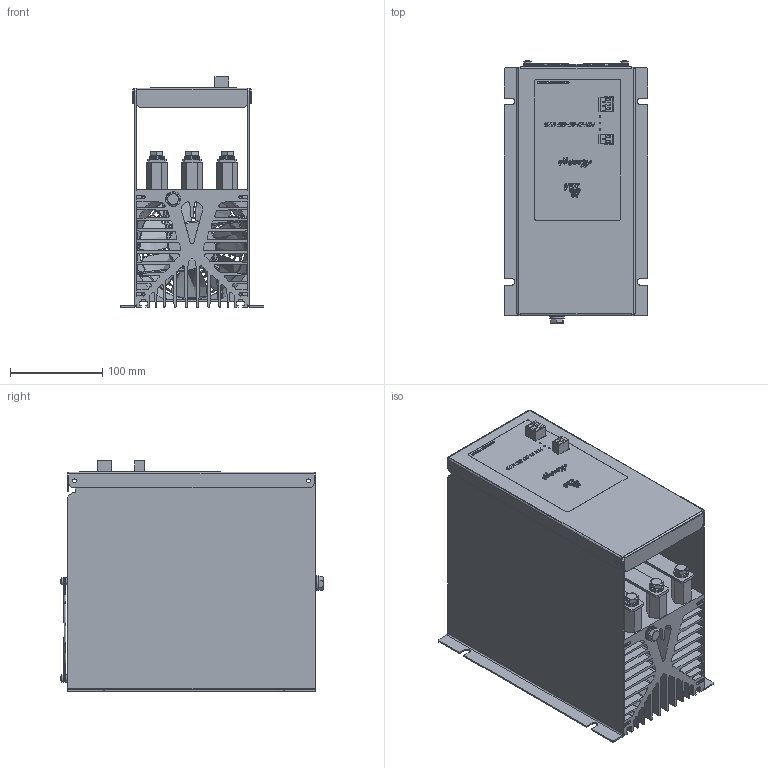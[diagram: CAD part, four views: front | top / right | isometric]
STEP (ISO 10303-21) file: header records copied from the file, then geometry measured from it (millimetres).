
FILE_DESCRIPTION(('STEP AP203'), '1');
FILE_NAME('ÌÒÊ 21-150 480 ÓÕË4', '2025-05-27T11:52:13', (''), ('ÎÎÎ "Ìåàíäð"'), 'C3D Converter', 'C3D Toolkit', '');
FILE_SCHEMA(('CONFIG_CONTROL_DESIGN'));
Length unit declared in the file: millimetre
Products named in the file (4): МТК-21-150; МТК; МР 83.0608.18 СБ
Assembly tree (9 placements, depth 2):
  (unnamed)
    МТК-21-150
    МТК
    МР 83.0608.18 СБ  x7
Bounding box: 155 x 283.91 x 249.4 mm (x, y, z)
Volume: 2123929.6 mm3; surface area: 1074947.8 mm2
Topology: 9 solids, 9 shells, 3897 faces, 11410 edges, 7516 vertices
Faces by surface type: plane 2128, extrusion 943, cylinder 604, bspline 115, torus 68, cone 32, sphere 7
Full cylindrical faces by diameter (mm): 4 x4, 4.2 x4, 4.572 x8, 5 x6, 6.1 x4, 6.8 x1, 8 x17, 8.4 x7, 11.6 x7, 16 x14, 38.1 x1, 115.062 x1, 118.662 x1
Entity records: 172494 total; most frequent: CARTESIAN_POINT 73609, ORIENTED_EDGE 21302, DIRECTION 15738, EDGE_CURVE 10651, VECTOR 8054, LINE 7111, VERTEX_POINT 7047, EDGE_LOOP 3908
